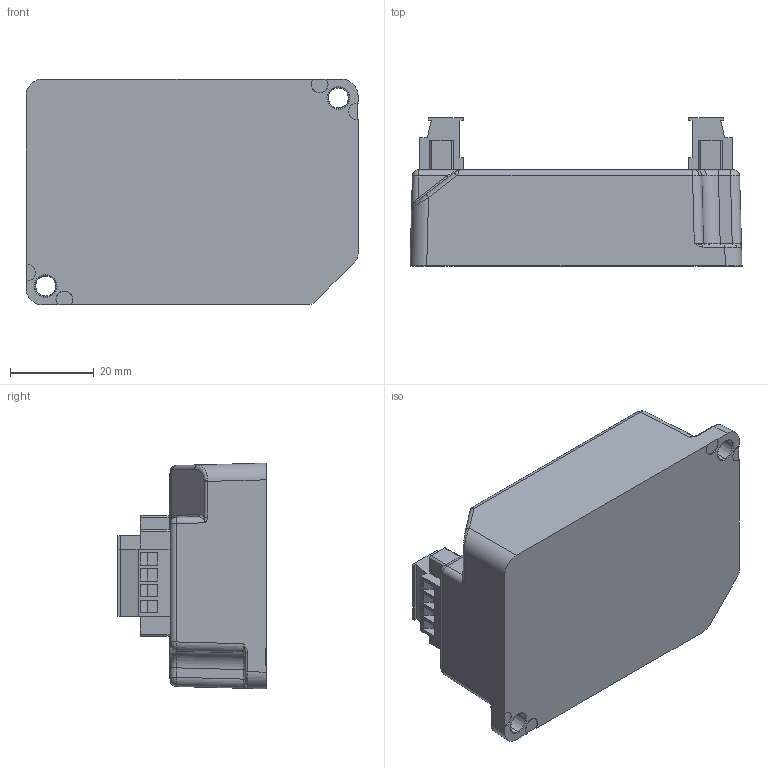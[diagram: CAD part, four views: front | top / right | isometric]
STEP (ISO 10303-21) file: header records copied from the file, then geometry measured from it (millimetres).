
FILE_DESCRIPTION (( 'STEP AP214' ), '1' );
FILE_NAME ('244-707-000-012.STEP', '2020-11-13T12:17:51', ( 'IT' ), ( 'MSS - CH' ), 'SwSTEP 2.0', 'SolidWorks 2017', '' );
FILE_SCHEMA (( 'AUTOMOTIVE_DESIGN' ));
Length unit declared in the file: millimetre
Products named in the file (1): 244-707-000-012
Bounding box: 79.4 x 35.5 x 54 mm (x, y, z)
Volume: 94827.2 mm3; surface area: 19509.7 mm2
Topology: 1 solids, 1 shells, 786 faces, 2157 edges, 1372 vertices
Faces by surface type: plane 443, cylinder 213, bspline 117, cone 8, torus 4, sphere 1
Entity records: 35119 total; most frequent: CARTESIAN_POINT 7146, ORIENTED_EDGE 4298, DIRECTION 3757, EDGE_CURVE 2149, LINE 1379, VECTOR 1379, VERTEX_POINT 1372, AXIS2_PLACEMENT_3D 1189
